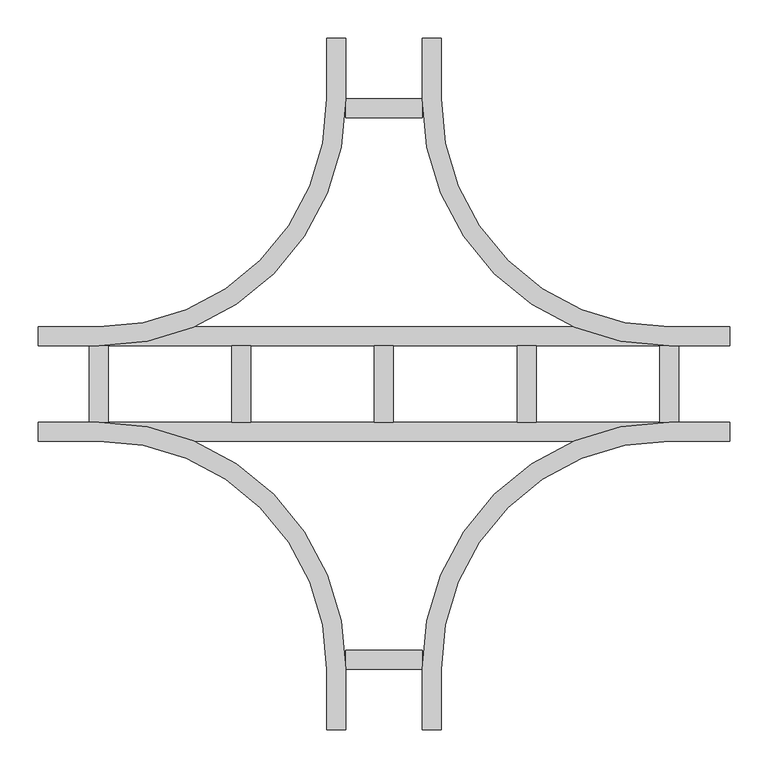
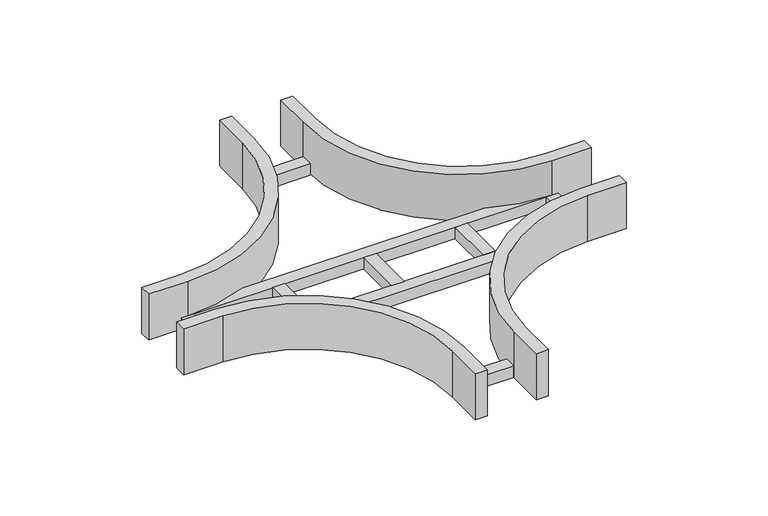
"""IFC4 building model written with IfcOpenShell, lengths in millimetres: cable carrier fitting geometry, 61_CTF_kabelgoot_open_kruising : kruising, radius_300."""

from ifc_helpers import new_model, si_unit, frame, origin, place, context, project, spatial, polyline, circle_curve, outline, extrude, source, transform, mapped, element, save
from ifc_brep_helpers import plane_surface, cylinder_surface, revolved_surface, advanced_brep


def cable_carrier_fitting_660f6fb6(model_context):
    return source(origin(), model_context, "Body", "SolidModel", [
        extrude(outline(polyline([(50.0, -350.0), (50.0, -375.0), (-50.0, -375.0), (-50.0, -350.0), (50.0, -350.0)])), frame((0.0, 0.0, -50.0), z_axis=(0.0, 0.0, 1.0), x_axis=(1.0, 0.0, 0.0)), (0.0, 0.0, 1.0), 25.0),
        extrude(outline(polyline([(50.0, 375.0), (50.0, 350.0), (-50.0, 350.0), (-50.0, 375.0), (50.0, 375.0)])), frame((0.0, 0.0, -50.0), z_axis=(0.0, 0.0, 1.0), x_axis=(1.0, 0.0, 0.0)), (0.0, 0.0, 1.0), 25.0),
        extrude(outline(polyline([(387.5, 50.0), (387.5, -50.0), (362.5, -50.0), (362.5, 50.0), (387.5, 50.0)])), frame((0.0, 0.0, -50.0), z_axis=(0.0, 0.0, 1.0), x_axis=(1.0, 0.0, 0.0)), (0.0, 0.0, 1.0), 25.0),
        extrude(outline(polyline([(200.0, 50.0), (200.0, -50.0), (175.0, -50.0), (175.0, 50.0), (200.0, 50.0)])), frame((0.0, 0.0, -50.0), z_axis=(0.0, 0.0, 1.0), x_axis=(1.0, 0.0, 0.0)), (0.0, 0.0, 1.0), 25.0),
        extrude(outline(polyline([(12.5, 50.0), (12.5, -50.0), (-12.5, -50.0), (-12.5, 50.0), (12.5, 50.0)])), frame((0.0, 0.0, -50.0), z_axis=(0.0, 0.0, 1.0), x_axis=(1.0, 0.0, 0.0)), (0.0, 0.0, 1.0), 25.0),
        extrude(outline(polyline([(-175.0, 50.0), (-175.0, -50.0), (-200.0, -50.0), (-200.0, 50.0), (-175.0, 50.0)])), frame((0.0, 0.0, -50.0), z_axis=(0.0, 0.0, 1.0), x_axis=(1.0, 0.0, 0.0)), (0.0, 0.0, 1.0), 25.0),
        extrude(outline(polyline([(-362.5, 50.0), (-362.5, -50.0), (-387.5, -50.0), (-387.5, 50.0), (-362.5, 50.0)])), frame((0.0, 0.0, -50.0), z_axis=(0.0, 0.0, 1.0), x_axis=(1.0, 0.0, 0.0)), (0.0, 0.0, 1.0), 25.0),
        advanced_brep(
        [(-75.0, -375.0, 50.0), (-75.0, -455.0, 50.0), (-50.0, -455.0, 50.0), (-50.0, -375.0, 50.0), (-375.0, -50.0, 50.0), (-455.0, -50.0, 50.0), (-455.0, -75.0, 50.0), (-375.0, -75.0, 50.0), (75.0, -375.0, 50.0), (375.0, -75.0, 50.0), (455.0, -75.0, 50.0), (455.0, -50.0, 50.0), (375.0, -50.0, 50.0), (50.0, -375.0, 50.0), (50.0, -455.0, 50.0), (75.0, -455.0, 50.0), (-75.0, -375.0, -50.0), (-375.0, -75.0, -50.0), (-455.0, -75.0, -50.0), (-455.0, -50.0, -50.0), (455.0, -50.0, -50.0), (455.0, -75.0, -50.0), (375.0, -75.0, -50.0), (75.0, -375.0, -50.0), (75.0, -455.0, -50.0), (50.0, -455.0, -50.0), (50.0, -375.0, -50.0), (250.0, -75.0, -50.0), (-250.0, -75.0, -50.0), (-50.0, -375.0, -50.0), (-50.0, -455.0, -50.0), (-75.0, -455.0, -50.0), (-250.0, -75.0, -25.0), (-375.0, -50.0, -25.0), (375.0, -50.0, -25.0), (-375.0, -75.0, -25.0), (375.0, -75.0, -25.0), (250.0, -75.0, -25.0)],
        [
            (0, 1),
            (1, 2),
            (2, 3),
            (3, 4, circle_curve(frame((-375.0, -375.0, 50.0), z_axis=(0.0, 0.0, 1.0), x_axis=(1.0, 0.0, 0.0)), 325.0)),
            (4, 5),
            (5, 6),
            (6, 7),
            (7, 0, circle_curve(frame((-375.0, -375.0, 50.0), z_axis=(0.0, 0.0, -1.0), x_axis=(1.0, 0.0, 0.0)), 300.0)),
            (8, 9, circle_curve(frame((375.0, -375.0, 50.0), z_axis=(0.0, 0.0, -1.0), x_axis=(1.0, 0.0, 0.0)), 300.0)),
            (9, 10),
            (10, 11),
            (11, 12),
            (12, 13, circle_curve(frame((375.0, -375.0, 50.0), z_axis=(0.0, 0.0, 1.0), x_axis=(1.0, 0.0, 0.0)), 325.0)),
            (13, 14),
            (14, 15),
            (15, 8),
            (16, 17, circle_curve(frame((-375.0, -375.0, -50.0), z_axis=(0.0, 0.0, 1.0), x_axis=(1.0, 0.0, 0.0)), 300.0)),
            (17, 18),
            (18, 19),
            (19, 20),
            (20, 21),
            (21, 22),
            (22, 23, circle_curve(frame((375.0, -375.0, -50.0), z_axis=(0.0, 0.0, 1.0), x_axis=(1.0, 0.0, 0.0)), 300.0)),
            (23, 24),
            (24, 25),
            (25, 26),
            (26, 27, circle_curve(frame((375.0, -375.0, -50.0), z_axis=(0.0, 0.0, -1.0), x_axis=(1.0, 0.0, 0.0)), 325.0)),
            (27, 28),
            (28, 29, circle_curve(frame((-375.0, -375.0, -50.0), z_axis=(0.0, 0.0, -1.0), x_axis=(1.0, 0.0, 0.0)), 325.0)),
            (29, 30),
            (30, 31),
            (31, 16),
            (0, 16),
            (31, 1),
            (30, 2),
            (29, 3),
            (28, 32),
            (32, 33, circle_curve(frame((-375.0, -375.0, -25.0), z_axis=(0.0, 0.0, 1.0), x_axis=(1.0, 0.0, 0.0)), 325.0)),
            (33, 4),
            (33, 34),
            (34, 12),
            (11, 20),
            (19, 5),
            (18, 6),
            (17, 35),
            (35, 7),
            (8, 23),
            (22, 36),
            (36, 9),
            (21, 10),
            (34, 37, circle_curve(frame((375.0, -375.0, -25.0), z_axis=(0.0, 0.0, 1.0), x_axis=(1.0, 0.0, 0.0)), 325.0)),
            (37, 27),
            (26, 13),
            (25, 14),
            (24, 15),
            (32, 37),
        ],
        [
            plane_surface(frame((-75.0, -375.0, 50.0), z_axis=(0.0, 0.0, 1.0), x_axis=(0.0, -1.0, 0.0))),
            plane_surface(frame((-75.0, -375.0, -50.0), z_axis=(0.0, 0.0, -1.0), x_axis=(0.0, 1.0, 0.0))),
            plane_surface(frame((-75.0, -375.0, 50.0), z_axis=(-1.0, 0.0, 0.0), x_axis=(0.0, 0.0, -1.0))),
            plane_surface(frame((-75.0, -455.0, 50.0), z_axis=(0.0, -1.0, 0.0), x_axis=(0.0, 0.0, -1.0))),
            plane_surface(frame((-50.0, -455.0, 50.0), z_axis=(1.0, 0.0, 0.0), x_axis=(0.0, 0.0, -1.0))),
            cylinder_surface(frame((-375.0, -375.0, -50.0), z_axis=(0.0, 0.0, 1.0), x_axis=(1.0, 0.0, 0.0)), 325.0),
            plane_surface(frame((-375.0, -50.0, 50.0), z_axis=(0.0, 1.0, 0.0), x_axis=(0.0, 0.0, -1.0))),
            plane_surface(frame((-455.0, -50.0, 50.0), z_axis=(-1.0, 0.0, 0.0), x_axis=(0.0, 0.0, -1.0))),
            plane_surface(frame((-455.0, -75.0, 50.0), z_axis=(0.0, -1.0, 0.0), x_axis=(0.0, 0.0, -1.0))),
            revolved_surface(polyline([(-75.0, -375.0, -50.0), (-75.0, -375.0, 50.0)]), (-375.0, -375.0, -50.0), (0.0, 0.0, -1.0)),
            revolved_surface(polyline([(675.0, -375.0, -50.0), (675.0, -375.0, 50.0)]), (375.0, -375.0, 0.0), (0.0, 0.0, -1.0)),
            plane_surface(frame((375.0, -75.0, 50.0), z_axis=(0.0, -1.0, 0.0), x_axis=(0.0, 0.0, -1.0))),
            plane_surface(frame((455.0, -75.0, 50.0), z_axis=(1.0, 0.0, 0.0), x_axis=(0.0, 0.0, -1.0))),
            cylinder_surface(frame((375.0, -375.0, 0.0), z_axis=(0.0, 0.0, 1.0), x_axis=(1.0, 0.0, 0.0)), 325.0),
            plane_surface(frame((50.0, -375.0, 50.0), z_axis=(-1.0, 0.0, 0.0), x_axis=(0.0, 0.0, -1.0))),
            plane_surface(frame((50.0, -455.0, 50.0), z_axis=(0.0, -1.0, 0.0), x_axis=(0.0, 0.0, -1.0))),
            plane_surface(frame((75.0, -455.0, 50.0), z_axis=(1.0, 0.0, 0.0), x_axis=(0.0, 0.0, -1.0))),
            plane_surface(frame((-375.0, -50.0, -25.0), z_axis=(0.0, 0.0, 1.0), x_axis=(-1.0, 0.0, 0.0))),
            plane_surface(frame((-375.0, -75.0, -25.0), z_axis=(0.0, -1.0, 0.0), x_axis=(0.0, 0.0, -1.0))),
        ],
        [
            (0, [[1, 2, 3, 4, 5, 6, 7, 8]]),
            (0, [[9, 10, 11, 12, 13, 14, 15, 16]]),
            (1, [[17, 18, 19, 20, 21, 22, 23, 24, 25, 26, 27, 28, 29, 30, 31, 32]]),
            (2, [[-1, 33, -32, 34]]),
            (3, [[-2, -34, -31, 35]]),
            (4, [[-3, -35, -30, 36]]),
            (5, [[-4, -36, -29, 37, 38, 39]]),
            (6, [[-5, -39, 40, 41, -12, 42, -20, 43]]),
            (7, [[-6, -43, -19, 44]]),
            (8, [[-7, -44, -18, 45, 46]]),
            (9, [[-8, -46, -45, -17, -33]]),
            (10, [[-9, 47, -23, 48, 49]]),
            (11, [[-10, -49, -48, -22, 50]]),
            (12, [[-11, -50, -21, -42]]),
            (13, [[-13, -41, 51, 52, -27, 53]]),
            (14, [[-14, -53, -26, 54]]),
            (15, [[-15, -54, -25, 55]]),
            (16, [[-16, -55, -24, -47]]),
            (17, [[-40, -38, 56, -51]]),
            (18, [[-28, -52, -56, -37]]),
        ],
    ),
        advanced_brep(
        [(-50.0, 375.0, 50.0), (-50.0, 455.0, 50.0), (-75.0, 455.0, 50.0), (-75.0, 375.0, 50.0), (-375.0, 75.0, 50.0), (-455.0, 75.0, 50.0), (-455.0, 50.0, 50.0), (-375.0, 50.0, 50.0), (50.0, 375.0, 50.0), (375.0, 50.0, 50.0), (455.0, 50.0, 50.0), (455.0, 75.0, 50.0), (375.0, 75.0, 50.0), (75.0, 375.0, 50.0), (75.0, 455.0, 50.0), (50.0, 455.0, 50.0), (-455.0, 50.0, -50.0), (-455.0, 75.0, -50.0), (-375.0, 75.0, -50.0), (-75.0, 375.0, -50.0), (-75.0, 455.0, -50.0), (-50.0, 455.0, -50.0), (-50.0, 375.0, -50.0), (-250.0, 75.0, -50.0), (250.0, 75.0, -50.0), (50.0, 375.0, -50.0), (50.0, 455.0, -50.0), (75.0, 455.0, -50.0), (75.0, 375.0, -50.0), (375.0, 75.0, -50.0), (455.0, 75.0, -50.0), (455.0, 50.0, -50.0), (-375.0, 50.0, -25.0), (375.0, 50.0, -25.0), (250.0, 75.0, -25.0), (-250.0, 75.0, -25.0), (-375.0, 75.0, -25.0), (375.0, 75.0, -25.0)],
        [
            (0, 1),
            (1, 2),
            (2, 3),
            (3, 4, circle_curve(frame((-375.0, 375.0, 50.0), z_axis=(0.0, 0.0, -1.0), x_axis=(1.0, 0.0, 0.0)), 300.0)),
            (4, 5),
            (5, 6),
            (6, 7),
            (7, 0, circle_curve(frame((-375.0, 375.0, 50.0), z_axis=(0.0, 0.0, 1.0), x_axis=(1.0, 0.0, 0.0)), 325.0)),
            (8, 9, circle_curve(frame((375.0, 375.0, 50.0), z_axis=(0.0, 0.0, 1.0), x_axis=(1.0, 0.0, 0.0)), 325.0)),
            (9, 10),
            (10, 11),
            (11, 12),
            (12, 13, circle_curve(frame((375.0, 375.0, 50.0), z_axis=(0.0, 0.0, -1.0), x_axis=(1.0, 0.0, 0.0)), 300.0)),
            (13, 14),
            (14, 15),
            (15, 8),
            (16, 17),
            (17, 18),
            (18, 19, circle_curve(frame((-375.0, 375.0, -50.0), z_axis=(0.0, 0.0, 1.0), x_axis=(1.0, 0.0, 0.0)), 300.0)),
            (19, 20),
            (20, 21),
            (21, 22),
            (22, 23, circle_curve(frame((-375.0, 375.0, -50.0), z_axis=(0.0, 0.0, -1.0), x_axis=(1.0, 0.0, 0.0)), 325.0)),
            (23, 24),
            (24, 25, circle_curve(frame((375.0, 375.0, -50.0), z_axis=(0.0, 0.0, -1.0), x_axis=(1.0, 0.0, 0.0)), 325.0)),
            (25, 26),
            (26, 27),
            (27, 28),
            (28, 29, circle_curve(frame((375.0, 375.0, -50.0), z_axis=(0.0, 0.0, 1.0), x_axis=(1.0, 0.0, 0.0)), 300.0)),
            (29, 30),
            (30, 31),
            (31, 16),
            (32, 33),
            (33, 34, circle_curve(frame((375.0, 375.0, -25.0), z_axis=(0.0, 0.0, -1.0), x_axis=(1.0, 0.0, 0.0)), 325.0)),
            (34, 35),
            (35, 32, circle_curve(frame((-375.0, 375.0, -25.0), z_axis=(0.0, 0.0, -1.0), x_axis=(1.0, 0.0, 0.0)), 325.0)),
            (0, 22),
            (21, 1),
            (20, 2),
            (19, 3),
            (18, 36),
            (36, 4),
            (17, 5),
            (16, 6),
            (31, 10),
            (9, 33),
            (32, 7),
            (35, 23),
            (8, 25),
            (24, 34),
            (30, 11),
            (29, 37),
            (37, 12),
            (28, 13),
            (27, 14),
            (26, 15),
        ],
        [
            plane_surface(frame((-75.0, -375.0, 50.0), z_axis=(0.0, 0.0, 1.0), x_axis=(0.0, -1.0, 0.0))),
            plane_surface(frame((-75.0, -375.0, -50.0), z_axis=(0.0, 0.0, -1.0), x_axis=(0.0, 1.0, 0.0))),
            plane_surface(frame((-375.0, -50.0, -25.0), z_axis=(0.0, 0.0, 1.0), x_axis=(-1.0, 0.0, 0.0))),
            plane_surface(frame((-50.0, 375.0, 50.0), z_axis=(1.0, 0.0, 0.0), x_axis=(0.0, 0.0, -1.0))),
            plane_surface(frame((-50.0, 455.0, 50.0), z_axis=(0.0, 1.0, 0.0), x_axis=(0.0, 0.0, -1.0))),
            plane_surface(frame((-75.0, 455.0, 50.0), z_axis=(-1.0, 0.0, 0.0), x_axis=(0.0, 0.0, -1.0))),
            revolved_surface(polyline([(-75.0, 375.0, -50.0), (-75.0, 375.0, 50.0)]), (-375.0, 375.0, 0.0), (0.0, 0.0, -1.0)),
            plane_surface(frame((-375.0, 75.0, 50.0), z_axis=(0.0, 1.0, 0.0), x_axis=(0.0, 0.0, -1.0))),
            plane_surface(frame((-455.0, 75.0, 50.0), z_axis=(-1.0, 0.0, 0.0), x_axis=(0.0, 0.0, -1.0))),
            plane_surface(frame((-455.0, 50.0, 50.0), z_axis=(0.0, -1.0, 0.0), x_axis=(0.0, 0.0, -1.0))),
            cylinder_surface(frame((-375.0, 375.0, 0.0), z_axis=(0.0, 0.0, 1.0), x_axis=(1.0, 0.0, 0.0)), 325.0),
            cylinder_surface(frame((375.0, 375.0, 0.0), z_axis=(0.0, 0.0, 1.0), x_axis=(1.0, 0.0, 0.0)), 325.0),
            plane_surface(frame((455.0, 50.0, 50.0), z_axis=(1.0, 0.0, 0.0), x_axis=(0.0, 0.0, -1.0))),
            plane_surface(frame((455.0, 75.0, 50.0), z_axis=(0.0, 1.0, 0.0), x_axis=(0.0, 0.0, -1.0))),
            revolved_surface(polyline([(675.0, 375.0, -50.0), (675.0, 375.0, 50.0)]), (375.0, 375.0, 0.0), (0.0, 0.0, -1.0)),
            plane_surface(frame((75.0, 375.0, 50.0), z_axis=(1.0, 0.0, 0.0), x_axis=(0.0, 0.0, -1.0))),
            plane_surface(frame((75.0, 455.0, 50.0), z_axis=(0.0, 1.0, 0.0), x_axis=(0.0, 0.0, -1.0))),
            plane_surface(frame((50.0, 455.0, 50.0), z_axis=(-1.0, 0.0, 0.0), x_axis=(0.0, 0.0, -1.0))),
            plane_surface(frame((375.0, 75.0, -25.0), z_axis=(0.0, 1.0, 0.0), x_axis=(0.0, 0.0, -1.0))),
        ],
        [
            (0, [[1, 2, 3, 4, 5, 6, 7, 8]]),
            (0, [[9, 10, 11, 12, 13, 14, 15, 16]]),
            (1, [[17, 18, 19, 20, 21, 22, 23, 24, 25, 26, 27, 28, 29, 30, 31, 32]]),
            (2, [[33, 34, 35, 36]]),
            (3, [[-1, 37, -22, 38]]),
            (4, [[-2, -38, -21, 39]]),
            (5, [[-3, -39, -20, 40]]),
            (6, [[-4, -40, -19, 41, 42]]),
            (7, [[-5, -42, -41, -18, 43]]),
            (8, [[-6, -43, -17, 44]]),
            (9, [[-7, -44, -32, 45, -10, 46, -33, 47]]),
            (10, [[-8, -47, -36, 48, -23, -37]]),
            (11, [[-9, 49, -25, 50, -34, -46]]),
            (12, [[-11, -45, -31, 51]]),
            (13, [[-12, -51, -30, 52, 53]]),
            (14, [[-13, -53, -52, -29, 54]]),
            (15, [[-14, -54, -28, 55]]),
            (16, [[-15, -55, -27, 56]]),
            (17, [[-16, -56, -26, -49]]),
            (18, [[-24, -48, -35, -50]]),
        ],
    ),
    ])


if __name__ == "__main__":
    model = new_model("IFC4")
    model_context = context("Model", 3, world=origin())
    ifc_project = project(units=[si_unit("LENGTHUNIT", "METRE", prefix="MILLI")], contexts=[model_context])
    site = spatial("IfcSite", under=ifc_project)
    building = spatial("IfcBuilding", under=site)
    placement = place(None, origin())
    cable_carrier_fitting_shape = cable_carrier_fitting_660f6fb6(model_context)
    element("IfcCableCarrierFitting", 1, ObjectType="61_CTF_kabelgoot_open_kruising : kruising, radius_300", at=placement, inside=building, context=model_context, shape_type="MappedRepresentation", body=[
        mapped(cable_carrier_fitting_shape, transform((0.0, 0.0, 0.0), x_axis=(1.0, 0.0, 0.0), y_axis=(0.0, 1.0, 0.0), z_axis=(0.0, 0.0, 1.0))),
    ])
    save(model, "model.ifc")
